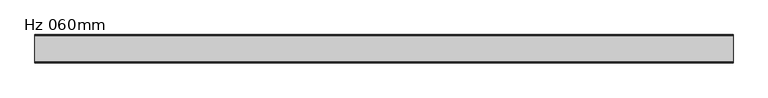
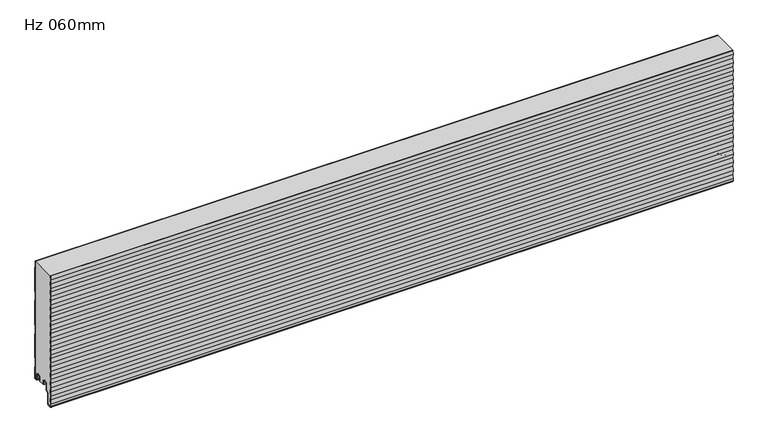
"""IFC4 building model written with IfcOpenShell, lengths in millimetres: plate geometry, KIP-MEX-KSS-1067-R19-CP-Hz-MR_SL : Hz 060mm."""

from ifc_helpers import new_model, si_unit, point, frame, frame_2d, origin, place, context, project, spatial, polyline, circle_curve, trimmed, segment, composite_curve, outline, extrude, source, transform, mapped, element, save
from ifc_brep_helpers import plane_surface, cylinder_surface, revolved_surface, advanced_brep


def hz_060mm_977d06c2(model_context):
    return source(origin(), model_context, "Body", "SolidModel", [
        advanced_brep(
        [(-740.0, -17.0015159, 2.0313088), (-740.0, -18.0015191, 1.0313116), (-740.0, -19.0015105, 2.0313088), (-740.0, -19.0015105, 6.0315125), (-740.0, -18.0015159, 6.0315125), (-740.0, -18.0015159, 8.7237223), (-740.0, -14.7015202, 12.023718), (-740.0, -10.301529, 12.023718), (-740.0, -7.0015335, 8.7237225), (-740.0, -7.0015335, -1.6962564), (-740.0, -5.2315393, -3.4662506), (-740.0, -0.9999916, -3.4662506), (-740.0, -0.9999916, 21.034026), (-740.0, -2.2002307, 22.4196686), (-740.0, -2.2002307, 41.7948349), (-740.0, -1.0, 43.1804679), (-740.0, -1.0, 97.2338833), (-740.0, -2.2002307, 98.6195162), (-740.0, -2.2002307, 117.9946825), (-740.0, -1.0, 119.3803155), (-740.0, -1.0, 173.4337309), (-740.0, -2.2002307, 174.8193638), (-740.0, -2.2002307, 194.1945301), (-740.0, -1.0, 195.5801631), (-740.0, -1.0, 249.6335785), (-740.0, -2.2002307, 251.0192114), (-740.0, -2.2002307, 266.0), (-740.0, -1.2002307, 266.0), (-740.0, -1.2002307, 251.3920919), (-740.0, -0.3417885, 250.4010442), (-740.0, 0.0, 249.4844273), (-740.0, 0.0, 195.7293142), (-740.0, -0.3417885, 194.8126973), (-740.0, -1.2002307, 193.8216497), (-740.0, -1.2002307, 175.1922443), (-740.0, -0.3417885, 174.2011966), (-740.0, 0.0, 173.2845797), (-740.0, 0.0, 119.5294666), (-740.0, -0.3417885, 118.6128497), (-740.0, -1.2002307, 117.6218021), (-740.0, -1.2002307, 98.9923967), (-740.0, -0.3417885, 98.001349), (-740.0, 0.0, 97.0847321), (-740.0, 0.0, 43.329619), (-740.0, -0.3417885, 42.4130021), (-740.0, -1.2002307, 41.4219545), (-740.0, -1.2002307, 22.7925491), (-740.0, -0.3417885, 21.8015014), (-740.0, 0.0, 20.8847931), (-740.0, 8.4e-06, -3.0662545), (-740.0, -1.3999878, -4.4662506), (-740.0, -5.2315393, -4.4662506), (-740.0, -8.0015335, -1.6962564), (-740.0, -8.0015335, 8.7237225), (-740.0, -10.301529, 11.023718), (-740.0, -14.7015202, 11.023718), (-740.0, -17.0015159, 8.7237223), (740.0, -17.0015159, 2.0313088), (740.0, -17.0015159, 8.7237223), (740.0, -14.7015202, 11.023718), (740.0, -10.301529, 11.023718), (740.0, -8.0015335, 8.7237225), (740.0, -8.0015335, -1.6962564), (740.0, -5.2315393, -4.4662506), (740.0, -1.3999878, -4.4662506), (740.0, 8.4e-06, -3.0662545), (740.0, 8.4e-06, 20.8848845), (740.0, -0.3417885, 21.8015014), (740.0, -1.2002307, 22.7925491), (740.0, -1.2002307, 41.4219545), (740.0, -0.3417885, 42.4130021), (740.0, 0.0, 43.329619), (740.0, 0.0, 97.0847321), (740.0, -0.3417885, 98.001349), (740.0, -1.2002307, 98.9923967), (740.0, -1.2002307, 117.6218021), (740.0, -0.3417885, 118.6128497), (740.0, 0.0, 119.5294666), (740.0, 0.0, 173.2845797), (740.0, -0.3417885, 174.2011966), (740.0, -1.2002307, 175.1922443), (740.0, -1.2002307, 193.8216497), (740.0, -0.3417885, 194.8126973), (740.0, 0.0, 195.7293142), (740.0, 0.0, 249.4844273), (740.0, -0.3417885, 250.4010442), (740.0, -1.2002307, 251.3920919), (740.0, -1.2002307, 266.0), (740.0, -2.2002307, 266.0), (740.0, -2.2002307, 251.0192114), (740.0, -1.0, 249.6335785), (740.0, -1.0, 195.5801631), (740.0, -2.2002307, 194.1945301), (740.0, -2.2002307, 174.8193638), (740.0, -1.0, 173.4337309), (740.0, -1.0, 119.3803155), (740.0, -2.2002307, 117.9946825), (740.0, -2.2002307, 98.6195162), (740.0, -1.0, 97.2338833), (740.0, -1.0, 43.1804679), (740.0, -2.2002307, 41.7948349), (740.0, -2.2002307, 22.4196686), (740.0, -0.9999916, 21.034026), (740.0, -0.9999916, -3.4662506), (740.0, -5.2315393, -3.4662506), (740.0, -7.0015335, -1.6962564), (740.0, -7.0015335, 8.7237225), (740.0, -10.301529, 12.023718), (740.0, -14.7015202, 12.023718), (740.0, -18.0015159, 8.7237223), (740.0, -18.0015159, 6.0315125), (740.0, -19.0015105, 6.0315125), (740.0, -19.0015105, 2.0313088), (740.0, -18.0015192, 1.0313116)],
        [
            (0, 1, circle_curve(frame((-740.0, -18.0015132, 2.0313088), z_axis=(-1.0, 0.0, 0.0), x_axis=(0.0, 0.0, 1.0)), 0.9999973)),
            (1, 2, circle_curve(frame((-740.0, -18.0015133, 2.0313088), z_axis=(-1.0, 0.0, 0.0), x_axis=(0.0, 0.0, 1.0)), 0.9999972)),
            (2, 3),
            (3, 4),
            (4, 5),
            (5, 6, circle_curve(frame((-740.0, -14.7015202, 8.7237223), z_axis=(-1.0, 0.0, 0.0), x_axis=(0.0, 0.0, 1.0)), 3.2999957)),
            (6, 7),
            (7, 8, circle_curve(frame((-740.0, -10.301529, 8.7237225), z_axis=(-1.0, 0.0, 0.0), x_axis=(0.0, 0.0, 1.0)), 3.2999955)),
            (8, 9),
            (9, 10, circle_curve(frame((-740.0, -5.2315393, -1.6962564), z_axis=(1.0, 0.0, 0.0), x_axis=(0.0, 0.0, 1.0)), 1.7699942)),
            (10, 11),
            (11, 12),
            (12, 13),
            (13, 14),
            (14, 15),
            (15, 16),
            (16, 17),
            (17, 18),
            (18, 19),
            (19, 20),
            (20, 21),
            (21, 22),
            (22, 23),
            (23, 24),
            (24, 25),
            (25, 26),
            (26, 27),
            (27, 28),
            (28, 29),
            (29, 30, circle_curve(frame((-740.0, -1.3999972, 249.4844273), z_axis=(-1.0, 0.0, 0.0), x_axis=(0.0, 0.0, 1.0)), 1.3999972)),
            (30, 31),
            (31, 32, circle_curve(frame((-740.0, -1.3999972, 195.7293142), z_axis=(-1.0, 0.0, 0.0), x_axis=(0.0, 0.0, 1.0)), 1.3999972)),
            (32, 33),
            (33, 34),
            (34, 35),
            (35, 36, circle_curve(frame((-740.0, -1.3999972, 173.2845797), z_axis=(-1.0, 0.0, 0.0), x_axis=(0.0, 0.0, 1.0)), 1.3999972)),
            (36, 37),
            (37, 38, circle_curve(frame((-740.0, -1.3999972, 119.5294666), z_axis=(-1.0, 0.0, 0.0), x_axis=(0.0, 0.0, 1.0)), 1.3999972)),
            (38, 39),
            (39, 40),
            (40, 41),
            (41, 42, circle_curve(frame((-740.0, -1.3999972, 97.0847321), z_axis=(-1.0, 0.0, 0.0), x_axis=(0.0, 0.0, 1.0)), 1.3999972)),
            (42, 43),
            (43, 44, circle_curve(frame((-740.0, -1.3999972, 43.329619), z_axis=(-1.0, 0.0, 0.0), x_axis=(0.0, 0.0, 1.0)), 1.3999972)),
            (44, 45),
            (45, 46),
            (46, 47),
            (47, 48, circle_curve(frame((-740.0, -1.3999972, 20.8848845), z_axis=(-1.0, 0.0, 0.0), x_axis=(0.0, 0.0, 1.0)), 1.3999972)),
            (48, 49),
            (49, 50, circle_curve(frame((-740.0, -1.3999878, -3.0662545), z_axis=(-1.0, 0.0, 0.0), x_axis=(0.0, 0.0, 1.0)), 1.3999962)),
            (50, 51),
            (51, 52, circle_curve(frame((-740.0, -5.2315393, -1.6962564), z_axis=(-1.0, 0.0, 0.0), x_axis=(0.0, 0.0, 1.0)), 2.7699942)),
            (52, 53),
            (53, 54, circle_curve(frame((-740.0, -10.301529, 8.7237225), z_axis=(1.0, 0.0, 0.0), x_axis=(0.0, 0.0, 1.0)), 2.2999955)),
            (54, 55),
            (55, 56, circle_curve(frame((-740.0, -14.7015202, 8.7237223), z_axis=(1.0, 0.0, 0.0), x_axis=(0.0, 0.0, 1.0)), 2.2999957)),
            (56, 0),
            (57, 58),
            (58, 59, circle_curve(frame((740.0, -14.7015202, 8.7237223), z_axis=(-1.0, 0.0, 0.0), x_axis=(0.0, 0.0, 1.0)), 2.2999957)),
            (59, 60),
            (60, 61, circle_curve(frame((740.0, -10.301529, 8.7237225), z_axis=(-1.0, 0.0, 0.0), x_axis=(0.0, 0.0, 1.0)), 2.2999955)),
            (61, 62),
            (62, 63, circle_curve(frame((740.0, -5.2315393, -1.6962564), z_axis=(1.0, 0.0, 0.0), x_axis=(0.0, 0.0, 1.0)), 2.7699942)),
            (63, 64),
            (64, 65, circle_curve(frame((740.0, -1.3999878, -3.0662545), z_axis=(1.0, 0.0, 0.0), x_axis=(0.0, 0.0, 1.0)), 1.3999962)),
            (65, 66),
            (66, 67, circle_curve(frame((740.0, -1.3999972, 20.8848845), z_axis=(1.0, 0.0, 0.0), x_axis=(0.0, 0.0, 1.0)), 1.3999972)),
            (67, 68),
            (68, 69),
            (69, 70),
            (70, 71, circle_curve(frame((740.0, -1.3999972, 43.329619), z_axis=(1.0, 0.0, 0.0), x_axis=(0.0, 0.0, 1.0)), 1.3999972)),
            (71, 72),
            (72, 73, circle_curve(frame((740.0, -1.3999972, 97.0847321), z_axis=(1.0, 0.0, 0.0), x_axis=(0.0, 0.0, 1.0)), 1.3999972)),
            (73, 74),
            (74, 75),
            (75, 76),
            (76, 77, circle_curve(frame((740.0, -1.3999972, 119.5294666), z_axis=(1.0, 0.0, 0.0), x_axis=(0.0, 0.0, 1.0)), 1.3999972)),
            (77, 78),
            (78, 79, circle_curve(frame((740.0, -1.3999972, 173.2845797), z_axis=(1.0, 0.0, 0.0), x_axis=(0.0, 0.0, 1.0)), 1.3999972)),
            (79, 80),
            (80, 81),
            (81, 82),
            (82, 83, circle_curve(frame((740.0, -1.3999972, 195.7293142), z_axis=(1.0, 0.0, 0.0), x_axis=(0.0, 0.0, 1.0)), 1.3999972)),
            (83, 84),
            (84, 85, circle_curve(frame((740.0, -1.3999972, 249.4844273), z_axis=(1.0, 0.0, 0.0), x_axis=(0.0, 0.0, 1.0)), 1.3999972)),
            (85, 86),
            (86, 87),
            (87, 88),
            (88, 89),
            (89, 90),
            (90, 91),
            (91, 92),
            (92, 93),
            (93, 94),
            (94, 95),
            (95, 96),
            (96, 97),
            (97, 98),
            (98, 99),
            (99, 100),
            (100, 101),
            (101, 102),
            (102, 103),
            (103, 104),
            (104, 105, circle_curve(frame((740.0, -5.2315393, -1.6962564), z_axis=(-1.0, 0.0, 0.0), x_axis=(0.0, 0.0, 1.0)), 1.7699942)),
            (105, 106),
            (106, 107, circle_curve(frame((740.0, -10.301529, 8.7237225), z_axis=(1.0, 0.0, 0.0), x_axis=(0.0, 0.0, 1.0)), 3.2999955)),
            (107, 108),
            (108, 109, circle_curve(frame((740.0, -14.7015202, 8.7237223), z_axis=(1.0, 0.0, 0.0), x_axis=(0.0, 0.0, 1.0)), 3.2999957)),
            (109, 110),
            (110, 111),
            (111, 112),
            (112, 113, circle_curve(frame((740.0, -18.0015133, 2.0313088), z_axis=(1.0, 0.0, 0.0), x_axis=(0.0, 0.0, 1.0)), 0.9999972)),
            (113, 57, circle_curve(frame((740.0, -18.0015132, 2.0313088), z_axis=(1.0, 0.0, 0.0), x_axis=(0.0, 0.0, 1.0)), 0.9999973)),
            (56, 58),
            (57, 0),
            (55, 59),
            (54, 60),
            (53, 61),
            (52, 62),
            (51, 63),
            (50, 64),
            (49, 65),
            (48, 66),
            (47, 67),
            (46, 68),
            (45, 69),
            (44, 70),
            (43, 71),
            (42, 72),
            (41, 73),
            (40, 74),
            (39, 75),
            (38, 76),
            (37, 77),
            (36, 78),
            (35, 79),
            (34, 80),
            (33, 81),
            (32, 82),
            (31, 83),
            (30, 84),
            (29, 85),
            (28, 86),
            (27, 87),
            (88, 26),
            (25, 89),
            (24, 90),
            (23, 91),
            (22, 92),
            (21, 93),
            (20, 94),
            (19, 95),
            (18, 96),
            (17, 97),
            (16, 98),
            (15, 99),
            (14, 100),
            (13, 101),
            (12, 102),
            (11, 103),
            (10, 104),
            (9, 105),
            (8, 106),
            (7, 107),
            (6, 108),
            (5, 109),
            (4, 110),
            (3, 111),
            (2, 112),
            (1, 113),
        ],
        [
            plane_surface(frame((-740.0, 0.0, 533.4), z_axis=(-1.0, 0.0, 0.0), x_axis=(0.0, 1.0, 0.0))),
            plane_surface(frame((740.0, 0.0, 533.4), z_axis=(1.0, 0.0, 0.0), x_axis=(0.0, 1.0, 0.0))),
            plane_surface(frame((-740.0, -17.0015159, 2.0313088), z_axis=(0.0, 1.0, 0.0), x_axis=(1.0, 0.0, 0.0))),
            revolved_surface(polyline([(740.0, -14.7015202, 11.023718), (-740.0, -14.7015202, 11.023718)]), (-740.0, -14.7015202, 8.7237223), (1.0, 0.0, 0.0)),
            plane_surface(frame((-740.0, -14.7015202, 11.023718), z_axis=(0.0, 0.0, -1.0), x_axis=(1.0, 0.0, 0.0))),
            revolved_surface(polyline([(740.0, -10.301529, 11.023717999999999), (-740.0, -10.301529, 11.023717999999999)]), (-740.0, -10.301529, 8.7237225), (1.0, 0.0, 0.0)),
            plane_surface(frame((-740.0, -8.0015335, 8.7237225), z_axis=(0.0, -1.0, 0.0), x_axis=(1.0, 0.0, 0.0))),
            cylinder_surface(frame((-740.0, -5.2315393, -1.6962564), z_axis=(-1.0, 0.0, 0.0), x_axis=(0.0, 0.0, 1.0)), 2.7699942),
            plane_surface(frame((-740.0, -5.2315393, -4.4662506), z_axis=(0.0, 0.0, -1.0), x_axis=(1.0, 0.0, 0.0))),
            cylinder_surface(frame((-740.0, -1.3999878, -3.0662545), z_axis=(-1.0, 0.0, 0.0), x_axis=(0.0, 0.0, 1.0)), 1.3999962),
            plane_surface(frame((-740.0, 8.4e-06, -3.0662545), z_axis=(0.0, 1.0, 0.0), x_axis=(1.0, 0.0, 0.0))),
            cylinder_surface(frame((-740.0, -1.3999972, 20.8848845), z_axis=(-1.0, 0.0, 0.0), x_axis=(0.0, 0.0, 1.0)), 1.3999972),
            plane_surface(frame((-740.0, -0.3417885, 21.8015014), z_axis=(0.0, 0.755864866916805, 0.6547276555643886), x_axis=(1.0, 0.0, 0.0))),
            plane_surface(frame((-740.0, -1.2002307, 32.1072518), z_axis=(0.0, 1.0, 0.0), x_axis=(1.0, 0.0, 0.0))),
            plane_surface(frame((-740.0, -1.2002307, 41.4219545), z_axis=(0.0, 0.755864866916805, -0.6547276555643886), x_axis=(1.0, 0.0, 0.0))),
            cylinder_surface(frame((-740.0, -1.3999972, 43.329619), z_axis=(-1.0, 0.0, 0.0), x_axis=(0.0, 0.0, 1.0)), 1.3999972),
            plane_surface(frame((-740.0, 0.0, 43.329619), z_axis=(0.0, 1.0, 0.0), x_axis=(1.0, 0.0, 0.0))),
            cylinder_surface(frame((-740.0, -1.3999972, 97.0847321), z_axis=(-1.0, 0.0, 0.0), x_axis=(0.0, 0.0, 1.0)), 1.3999972),
            plane_surface(frame((-740.0, -0.3417885, 98.001349), z_axis=(0.0, 0.755864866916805, 0.6547276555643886), x_axis=(1.0, 0.0, 0.0))),
            plane_surface(frame((-740.0, -1.2002307, 108.3070994), z_axis=(0.0, 1.0, 0.0), x_axis=(1.0, 0.0, 0.0))),
            plane_surface(frame((-740.0, -1.2002307, 117.6218021), z_axis=(0.0, 0.755864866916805, -0.6547276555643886), x_axis=(1.0, 0.0, 0.0))),
            cylinder_surface(frame((-740.0, -1.3999972, 119.5294666), z_axis=(-1.0, 0.0, 0.0), x_axis=(0.0, 0.0, 1.0)), 1.3999972),
            plane_surface(frame((-740.0, 0.0, 119.5294666), z_axis=(0.0, 1.0, 0.0), x_axis=(1.0, 0.0, 0.0))),
            cylinder_surface(frame((-740.0, -1.3999972, 173.2845797), z_axis=(-1.0, 0.0, 0.0), x_axis=(0.0, 0.0, 1.0)), 1.3999972),
            plane_surface(frame((-740.0, -0.3417885, 174.2011966), z_axis=(0.0, 0.755864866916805, 0.6547276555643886), x_axis=(1.0, 0.0, 0.0))),
            plane_surface(frame((-740.0, -1.2002307, 184.506947), z_axis=(0.0, 1.0, 0.0), x_axis=(1.0, 0.0, 0.0))),
            plane_surface(frame((-740.0, -1.2002307, 193.8216497), z_axis=(0.0, 0.755864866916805, -0.6547276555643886), x_axis=(1.0, 0.0, 0.0))),
            cylinder_surface(frame((-740.0, -1.3999972, 195.7293142), z_axis=(-1.0, 0.0, 0.0), x_axis=(0.0, 0.0, 1.0)), 1.3999972),
            plane_surface(frame((-740.0, 0.0, 195.7293142), z_axis=(0.0, 1.0, 0.0), x_axis=(1.0, 0.0, 0.0))),
            cylinder_surface(frame((-740.0, -1.3999972, 249.4844273), z_axis=(-1.0, 0.0, 0.0), x_axis=(0.0, 0.0, 1.0)), 1.3999972),
            plane_surface(frame((-740.0, -0.3417885, 250.4010442), z_axis=(0.0, 0.755864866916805, 0.6547276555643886), x_axis=(1.0, 0.0, 0.0))),
            plane_surface(frame((-740.0, -1.2002307, 260.7067946), z_axis=(0.0, 1.0, 0.0), x_axis=(1.0, 0.0, 0.0))),
            plane_surface(frame((-740.0, -2.2002307, 270.3943777), z_axis=(0.0, -1.0, 0.0), x_axis=(1.0, 0.0, 0.0))),
            plane_surface(frame((-740.0, -2.2002307, 251.0192114), z_axis=(0.0, -0.755864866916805, -0.6547276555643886), x_axis=(1.0, 0.0, 0.0))),
            plane_surface(frame((-740.0, -1.0, 249.6335785), z_axis=(0.0, -1.0, 0.0), x_axis=(1.0, 0.0, 0.0))),
            plane_surface(frame((-740.0, -1.0, 195.5801631), z_axis=(0.0, -0.755864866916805, 0.6547276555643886), x_axis=(1.0, 0.0, 0.0))),
            plane_surface(frame((-740.0, -2.2002307, 194.1945301), z_axis=(0.0, -1.0, 0.0), x_axis=(1.0, 0.0, 0.0))),
            plane_surface(frame((-740.0, -2.2002307, 174.8193638), z_axis=(0.0, -0.755864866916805, -0.6547276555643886), x_axis=(1.0, 0.0, 0.0))),
            plane_surface(frame((-740.0, -1.0, 173.4337309), z_axis=(0.0, -1.0, 0.0), x_axis=(1.0, 0.0, 0.0))),
            plane_surface(frame((-740.0, -1.0, 119.3803155), z_axis=(0.0, -0.755864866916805, 0.6547276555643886), x_axis=(1.0, 0.0, 0.0))),
            plane_surface(frame((-740.0, -2.2002307, 117.9946825), z_axis=(0.0, -1.0, 0.0), x_axis=(1.0, 0.0, 0.0))),
            plane_surface(frame((-740.0, -2.2002307, 98.6195162), z_axis=(0.0, -0.755864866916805, -0.6547276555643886), x_axis=(1.0, 0.0, 0.0))),
            plane_surface(frame((-740.0, -1.0, 97.2338833), z_axis=(0.0, -1.0, 0.0), x_axis=(1.0, 0.0, 0.0))),
            plane_surface(frame((-740.0, -1.0, 43.1804679), z_axis=(0.0, -0.755864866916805, 0.6547276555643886), x_axis=(1.0, 0.0, 0.0))),
            plane_surface(frame((-740.0, -2.2002307, 41.7948349), z_axis=(0.0, -1.0, 0.0), x_axis=(1.0, 0.0, 0.0))),
            plane_surface(frame((-740.0, -2.2002307, 22.4196686), z_axis=(0.0, -0.755864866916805, -0.6547276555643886), x_axis=(1.0, 0.0, 0.0))),
            plane_surface(frame((-740.0, -0.9999916, 21.034026), z_axis=(0.0, -1.0, 0.0), x_axis=(1.0, 0.0, 0.0))),
            plane_surface(frame((-740.0, -0.9999916, -3.4662506), z_axis=(0.0, 0.0, 1.0), x_axis=(1.0, 0.0, 0.0))),
            revolved_surface(polyline([(740.0, -5.2315393, 0.07373779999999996), (-740.0, -5.2315393, 0.07373779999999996)]), (-740.0, -5.2315393, -1.6962564), (1.0, 0.0, 0.0)),
            plane_surface(frame((-740.0, -7.0015335, -1.6962564), z_axis=(0.0, 1.0, 0.0), x_axis=(1.0, 0.0, 0.0))),
            cylinder_surface(frame((-740.0, -10.301529, 8.7237225), z_axis=(-1.0, 0.0, 0.0), x_axis=(0.0, 0.0, 1.0)), 3.2999955),
            plane_surface(frame((-740.0, -10.301529, 12.023718), z_axis=(0.0, 0.0, 1.0), x_axis=(1.0, 0.0, 0.0))),
            cylinder_surface(frame((-740.0, -14.7015202, 8.7237223), z_axis=(-1.0, 0.0, 0.0), x_axis=(0.0, 0.0, 1.0)), 3.2999957),
            plane_surface(frame((-740.0, -18.0015159, 8.7237223), z_axis=(0.0, -1.0, 0.0), x_axis=(1.0, 0.0, 0.0))),
            plane_surface(frame((-740.0, -18.0015159, 6.0315125), z_axis=(0.0, 0.0, 1.0), x_axis=(1.0, 0.0, 0.0))),
            plane_surface(frame((-740.0, -19.0015105, 6.0315125), z_axis=(0.0, -1.0, 0.0), x_axis=(1.0, 0.0, 0.0))),
            cylinder_surface(frame((-740.0, -18.0015133, 2.0313088), z_axis=(-1.0, 0.0, 0.0), x_axis=(0.0, 0.0, 1.0)), 0.9999972),
            cylinder_surface(frame((-740.0, -18.0015132, 2.0313088), z_axis=(-1.0, 0.0, 0.0), x_axis=(0.0, 0.0, 1.0)), 0.9999973),
            plane_surface(frame((740.0, 10.0, 266.0), z_axis=(0.0, 0.0, 1.0), x_axis=(-1.0, 0.0, 0.0))),
        ],
        [
            (0, [[1, 2, 3, 4, 5, 6, 7, 8, 9, 10, 11, 12, 13, 14, 15, 16, 17, 18, 19, 20, 21, 22, 23, 24, 25, 26, 27, 28, 29, 30, 31, 32, 33, 34, 35, 36, 37, 38, 39, 40, 41, 42, 43, 44, 45, 46, 47, 48, 49, 50, 51, 52, 53, 54, 55, 56, 57]]),
            (1, [[58, 59, 60, 61, 62, 63, 64, 65, 66, 67, 68, 69, 70, 71, 72, 73, 74, 75, 76, 77, 78, 79, 80, 81, 82, 83, 84, 85, 86, 87, 88, 89, 90, 91, 92, 93, 94, 95, 96, 97, 98, 99, 100, 101, 102, 103, 104, 105, 106, 107, 108, 109, 110, 111, 112, 113, 114]]),
            (2, [[115, -58, 116, -57]]),
            (3, [[117, -59, -115, -56]]),
            (4, [[118, -60, -117, -55]]),
            (5, [[119, -61, -118, -54]]),
            (6, [[120, -62, -119, -53]]),
            (7, [[121, -63, -120, -52]]),
            (8, [[122, -64, -121, -51]]),
            (9, [[123, -65, -122, -50]]),
            (10, [[124, -66, -123, -49]]),
            (11, [[125, -67, -124, -48]]),
            (12, [[126, -68, -125, -47]]),
            (13, [[127, -69, -126, -46]]),
            (14, [[128, -70, -127, -45]]),
            (15, [[129, -71, -128, -44]]),
            (16, [[130, -72, -129, -43]]),
            (17, [[131, -73, -130, -42]]),
            (18, [[132, -74, -131, -41]]),
            (19, [[133, -75, -132, -40]]),
            (20, [[134, -76, -133, -39]]),
            (21, [[135, -77, -134, -38]]),
            (22, [[136, -78, -135, -37]]),
            (23, [[137, -79, -136, -36]]),
            (24, [[138, -80, -137, -35]]),
            (25, [[139, -81, -138, -34]]),
            (26, [[140, -82, -139, -33]]),
            (27, [[141, -83, -140, -32]]),
            (28, [[142, -84, -141, -31]]),
            (29, [[143, -85, -142, -30]]),
            (30, [[144, -86, -143, -29]]),
            (31, [[-28, 145, -87, -144]]),
            (32, [[-89, 146, -26, 147]]),
            (33, [[148, -90, -147, -25]]),
            (34, [[149, -91, -148, -24]]),
            (35, [[150, -92, -149, -23]]),
            (36, [[151, -93, -150, -22]]),
            (37, [[152, -94, -151, -21]]),
            (38, [[153, -95, -152, -20]]),
            (39, [[154, -96, -153, -19]]),
            (40, [[155, -97, -154, -18]]),
            (41, [[156, -98, -155, -17]]),
            (42, [[157, -99, -156, -16]]),
            (43, [[158, -100, -157, -15]]),
            (44, [[159, -101, -158, -14]]),
            (45, [[160, -102, -159, -13]]),
            (46, [[161, -103, -160, -12]]),
            (47, [[162, -104, -161, -11]]),
            (48, [[163, -105, -162, -10]]),
            (49, [[164, -106, -163, -9]]),
            (50, [[165, -107, -164, -8]]),
            (51, [[166, -108, -165, -7]]),
            (52, [[167, -109, -166, -6]]),
            (53, [[168, -110, -167, -5]]),
            (54, [[169, -111, -168, -4]]),
            (55, [[170, -112, -169, -3]]),
            (56, [[171, -113, -170, -2]]),
            (57, [[-116, -114, -171, -1]]),
            (58, [[-146, -88, -145, -27]]),
        ],
    ),
        extrude(outline(composite_curve([segment(polyline([(-60.0, -8.9442792), (-58.9411849, 0.5807017), (-60.0, 10.1056827), (-58.9411849, 19.6306636), (-60.0, 29.1556446), (-58.9411849, 38.6806255), (-60.0, 48.2056065), (-58.9411849, 57.7305874), (-60.0, 67.2555684), (-58.9411849, 76.7805493), (-60.0, 86.3055303), (-58.9411849, 95.8305112), (-60.0, 105.3554922), (-58.9411849, 114.8804731), (-60.0, 124.4054541), (-58.9411849, 133.930435), (-60.0, 143.455416), (-58.9411849, 152.9803969), (-60.0, 162.5053779), (-58.9411849, 172.0303588), (-60.0, 181.5553398), (-58.9411849, 191.0803207), (-60.0, 200.6053017), (-58.9411849, 210.1302826), (-60.0, 219.6552636), (-58.9411849, 229.1802445), (-60.0, 238.7052255), (-58.9411849, 248.2302064), (-60.0, 257.7551874), (-59.0834909, 266.0), (-58.0773313, 266.0), (-58.9938405, 257.7551874), (-57.9350254, 248.2302064), (-58.9938405, 238.7052255), (-57.9350254, 229.1802445), (-58.9938405, 219.6552636), (-57.9350254, 210.1302826), (-58.9938405, 200.6053017), (-57.9350254, 191.0803207), (-58.9938405, 181.5553398), (-57.9350254, 172.0303588), (-58.9938405, 162.5053779), (-57.9350254, 152.9803969), (-58.9938405, 143.455416), (-57.9350254, 133.930435), (-58.9938405, 124.4054541), (-57.9350254, 114.8804731), (-58.9938405, 105.3554922), (-57.9350254, 95.8305112), (-58.9938405, 86.3055303), (-57.9350254, 76.7805493), (-58.9938405, 67.2555684), (-57.9350254, 57.7305874), (-58.9938405, 48.2056065), (-57.9350254, 38.6806255), (-58.9938405, 29.1556446), (-57.9350254, 19.6306636), (-58.9938405, 10.1056827), (-57.9350254, 0.5807017), (-58.9938405, -8.9442792), (-57.9350254, -18.4692602), (-58.9722676, -27.800174), (-58.9722676, -32.4501937)]), True, "CONTINUOUS"), segment(trimmed(circle_curve(frame_2d((-56.4022755, -32.4521995)), 2.5699929), [point((-58.9722676, -32.4501937))], [point((-56.1782859, -35.0124127))], True, "CARTESIAN"), True, "CONTINUOUS"), segment(polyline([(-56.1782859, -35.0124127), (-51.1965632, -34.5765685)]), True, "CONTINUOUS"), segment(trimmed(circle_curve(frame_2d((-51.677967, -31.9198392)), 2.6999926), [point((-51.1965632, -34.5765685))], [point((-48.9779744, -31.9198392))], True, "CARTESIAN"), True, "CONTINUOUS"), segment(polyline([(-48.9779744, -31.9198392), (-48.9779744, -10.7773997)]), True, "CONTINUOUS"), segment(trimmed(circle_curve(frame_2d((-46.677977, -10.7773997)), 2.2999974), [point((-48.9779744, -10.7773997))], [point((-48.3043208, -9.1510559))], False, "CARTESIAN"), True, "CONTINUOUS"), segment(polyline([(-48.3043208, -9.1510559), (-43.4759033, -4.3226385)]), True, "CONTINUOUS"), segment(trimmed(circle_curve(frame_2d((-44.677981, -3.1205608)), 1.6999946), [point((-43.4759033, -4.3226385))], [point((-42.9779864, -3.1205608))], True, "CARTESIAN"), True, "CONTINUOUS"), segment(polyline([(-42.9779864, -3.1205608), (-42.9779864, 8.6903283)]), True, "CONTINUOUS"), segment(trimmed(circle_curve(frame_2d((-39.6279911, 8.6903283)), 3.3499953), [point((-42.9779864, 8.6903283))], [point((-39.6279911, 12.0403236))], False, "CARTESIAN"), True, "CONTINUOUS"), segment(polyline([(-39.6279911, 12.0403236), (-35.2279999, 12.0403236)]), True, "CONTINUOUS"), segment(trimmed(circle_curve(frame_2d((-35.2279999, 8.6903283)), 3.3499953), [point((-35.2279999, 12.0403236))], [point((-31.8780046, 8.6903283))], False, "CARTESIAN"), True, "CONTINUOUS"), segment(polyline([(-31.8780046, 8.6903283), (-31.8780046, 5.9912173), (-30.4795257, 5.9912173), (-30.4795257, 2.2328239)]), True, "CONTINUOUS"), segment(trimmed(circle_curve(frame_2d((-31.6795224, 2.2313092)), 1.1999976), [point((-30.4795257, 2.2328239))], [point((-31.6486225, 1.0317095))], False, "CARTESIAN"), True, "CONTINUOUS"), segment(trimmed(circle_curve(frame_2d((-31.6795224, 2.2313092)), 1.1999976), [point((-31.6486225, 1.0317095))], [point((-32.8780046, 2.1710221))], False, "CARTESIAN"), True, "CONTINUOUS"), segment(polyline([(-32.8780046, 2.1710221), (-32.8780046, 8.6903283)]), True, "CONTINUOUS"), segment(trimmed(circle_curve(frame_2d((-35.2279999, 8.6903283)), 2.3499953), [point((-32.8780046, 8.6903283))], [point((-35.2279999, 11.0403236))], True, "CARTESIAN"), True, "CONTINUOUS"), segment(polyline([(-35.2279999, 11.0403236), (-39.6279911, 11.0403236)]), True, "CONTINUOUS"), segment(trimmed(circle_curve(frame_2d((-39.6279911, 8.6903283)), 2.3499953), [point((-39.6279911, 11.0403236))], [point((-41.9779864, 8.6903283))], True, "CARTESIAN"), True, "CONTINUOUS"), segment(polyline([(-41.9779864, 8.6903283), (-41.9779864, -3.1205608)]), True, "CONTINUOUS"), segment(trimmed(circle_curve(frame_2d((-44.677981, -3.1205608)), 2.6999946), [point((-41.9779864, -3.1205608))], [point((-42.7687965, -5.0297453))], False, "CARTESIAN"), True, "CONTINUOUS"), segment(polyline([(-42.7687965, -5.0297453), (-47.597214, -9.8581627)]), True, "CONTINUOUS"), segment(trimmed(circle_curve(frame_2d((-46.677977, -10.7773997)), 1.2999974), [point((-47.597214, -9.8581627))], [point((-47.9779744, -10.7773997))], True, "CARTESIAN"), True, "CONTINUOUS"), segment(polyline([(-47.9779744, -10.7773997), (-47.9779744, -31.9198392)]), True, "CONTINUOUS"), segment(trimmed(circle_curve(frame_2d((-51.677967, -31.9198392)), 3.6999926), [point((-47.9779744, -31.9198392))], [point((-51.0671659, -35.5690675))], False, "CARTESIAN"), True, "CONTINUOUS"), segment(polyline([(-51.0671659, -35.5690675), (-56.0911302, -36.0086074)]), True, "CONTINUOUS"), segment(trimmed(circle_curve(frame_2d((-56.4022755, -32.4521995)), 3.5699929), [point((-56.0911302, -36.0086074))], [point((-59.9722676, -32.4498355))], False, "CARTESIAN"), True, "CONTINUOUS"), segment(polyline([(-59.9722676, -32.4498355), (-59.9722676, -27.7447637), (-58.9411849, -18.4692602), (-60.0, -8.9442792)]), True, "CONTINUOUS")], self_intersect=False)), frame((-740.0, 0.0, 0.0), z_axis=(1.0, 0.0, 0.0), x_axis=(0.0, 1.0, 0.0)), (0.0, 0.0, 1.0), 1480.0),
        extrude(outline(composite_curve([segment(polyline([(-35.2341594, 12.0403236), (-39.6341506, 12.0403236)]), True, "CONTINUOUS"), segment(trimmed(circle_curve(frame_2d((-39.6341506, 8.6903283)), 3.3499953), [point((-39.6341506, 12.0403236))], [point((-42.9841459, 8.6903283))], True, "CARTESIAN"), True, "CONTINUOUS"), segment(polyline([(-42.9841459, 8.6903283), (-42.9841459, -3.1205608)]), True, "CONTINUOUS"), segment(trimmed(circle_curve(frame_2d((-44.6841405, -3.1205608)), 1.6999946), [point((-42.9841459, -3.1205608))], [point((-43.4820628, -4.3226385))], False, "CARTESIAN"), True, "CONTINUOUS"), segment(polyline([(-43.4820628, -4.3226385), (-48.3104803, -9.1510559)]), True, "CONTINUOUS"), segment(trimmed(circle_curve(frame_2d((-46.6841365, -10.7773997)), 2.2999974), [point((-48.3104803, -9.1510559))], [point((-48.9841339, -10.7773997))], True, "CARTESIAN"), True, "CONTINUOUS"), segment(polyline([(-48.9841339, -10.7773997), (-48.9841339, -31.9198392)]), True, "CONTINUOUS"), segment(trimmed(circle_curve(frame_2d((-51.6841265, -31.9198392)), 2.6999926), [point((-48.9841339, -31.9198392))], [point((-51.2027227, -34.5765685))], False, "CARTESIAN"), True, "CONTINUOUS"), segment(polyline([(-51.2027227, -34.5765685), (-56.1844454, -35.0124127)]), True, "CONTINUOUS"), segment(trimmed(circle_curve(frame_2d((-56.4084351, -32.4521995)), 2.5699929), [point((-56.1844454, -35.0124127))], [point((-58.9784271, -32.4501937))], False, "CARTESIAN"), True, "CONTINUOUS"), segment(polyline([(-58.9784271, -32.4501937), (-58.9784271, -27.800174), (-57.9411849, -18.4692602), (-59.0, -8.9442792), (-57.9411849, 0.5807017), (-59.0, 10.1056827), (-57.9411849, 19.6306636), (-59.0, 29.1556446), (-57.9411849, 38.6806255), (-59.0, 48.2056065), (-57.9411849, 57.7305874), (-59.0, 67.2555684), (-57.9411849, 76.7805493), (-59.0, 86.3055303), (-57.9411849, 95.8305112), (-59.0, 105.3554922), (-57.9411849, 114.8804731), (-59.0, 124.4054541), (-57.9411849, 133.930435), (-59.0, 143.455416), (-57.9411849, 152.9803969), (-59.0, 162.5053779), (-57.9411849, 172.0303588), (-59.0, 181.5553398), (-57.9411849, 191.0803207), (-59.0, 200.6053017), (-57.9411849, 210.1302826), (-59.0, 219.6552636), (-57.9411849, 229.1802445), (-59.0, 238.7052255), (-57.9411849, 248.2302064), (-59.0, 257.7551874), (-58.0834909, 266.0), (-2.2002307, 266.0), (-2.2002307, 251.0192115), (-1.0, 249.6335785), (-1.0, 195.5801631), (-2.2002307, 194.1945302), (-2.2002307, 174.8193639), (-1.0, 173.4337309), (-1.0, 119.3803155), (-2.2002307, 117.9946826), (-2.2002307, 98.6195163), (-1.0, 97.2338833), (-1.0, 43.1804679), (-2.2002307, 41.794835), (-2.2002307, 22.4196687), (-0.9999916, 21.034026), (-0.9999916, -3.4662506), (-5.2315389, -3.4662506)]), True, "CONTINUOUS"), segment(trimmed(circle_curve(frame_2d((-5.2315389, -1.6962564)), 1.7699942), [point((-5.2315389, -3.4662506))], [point((-7.0015331, -1.6962564))], False, "CARTESIAN"), True, "CONTINUOUS"), segment(polyline([(-7.0015331, -1.6962564), (-7.0015331, 8.7237222)]), True, "CONTINUOUS"), segment(trimmed(circle_curve(frame_2d((-10.301529, 8.7237222)), 3.2999959), [point((-7.0015331, 8.7237222))], [point((-10.301529, 12.023718))], True, "CARTESIAN"), True, "CONTINUOUS"), segment(polyline([(-10.301529, 12.023718), (-14.7015202, 12.023718)]), True, "CONTINUOUS"), segment(trimmed(circle_curve(frame_2d((-14.7015202, 8.7237223)), 3.2999957), [point((-14.7015202, 12.023718))], [point((-18.0015159, 8.7237223))], True, "CARTESIAN"), True, "CONTINUOUS"), segment(polyline([(-18.0015159, 8.7237223), (-18.0015159, 6.0315125), (-19.0015105, 6.0315125), (-19.0015105, 2.0313089)]), True, "CONTINUOUS"), segment(trimmed(circle_curve(frame_2d((-18.0015133, 2.0313089)), 0.9999972), [point((-19.0015105, 2.0313089))], [point((-18.0015192, 1.0313117))], True, "CARTESIAN"), True, "CONTINUOUS"), segment(polyline([(-18.0015192, 1.0313117), (-19.0328308, 0.0), (-30.6230724, 0.0), (-31.654782, 1.0317095)]), True, "CONTINUOUS"), segment(trimmed(circle_curve(frame_2d((-31.6856819, 2.2313092)), 1.1999976), [point((-31.654782, 1.0317095))], [point((-30.4856852, 2.2328239))], True, "CARTESIAN"), True, "CONTINUOUS"), segment(polyline([(-30.4856852, 2.2328239), (-30.4856852, 5.9912173), (-31.8841641, 5.9912173), (-31.8841641, 8.6903283)]), True, "CONTINUOUS"), segment(trimmed(circle_curve(frame_2d((-35.2341594, 8.6903283)), 3.3499953), [point((-31.8841641, 8.6903283))], [point((-35.2341594, 12.0403236))], True, "CARTESIAN"), True, "CONTINUOUS")], self_intersect=False)), frame((-740.0, 0.0, 0.0), z_axis=(1.0, 0.0, 0.0), x_axis=(0.0, 1.0, 0.0)), (0.0, 0.0, 1.0), 1480.0),
    ])


if __name__ == "__main__":
    model = new_model("IFC4")
    model_context = context("Model", 3, world=origin())
    ifc_project = project(units=[si_unit("LENGTHUNIT", "METRE", prefix="MILLI")], contexts=[model_context])
    site = spatial("IfcSite", under=ifc_project)
    building = spatial("IfcBuilding", under=site)
    placement = place(None, origin())
    hz_060mm_shape = hz_060mm_977d06c2(model_context)
    element("IfcPlate", 1, ObjectType="KIP-MEX-KSS-1067-R19-CP-Hz-MR_SL : Hz 060mm", at=placement, inside=building, context=model_context, shape_type="MappedRepresentation", body=[
        mapped(hz_060mm_shape, transform((0.0, 0.0, 0.0), x_axis=(1.0, 0.0, 0.0), y_axis=(0.0, 1.0, 0.0), z_axis=(0.0, 0.0, 1.0))),
    ])
    save(model, "model.ifc")
